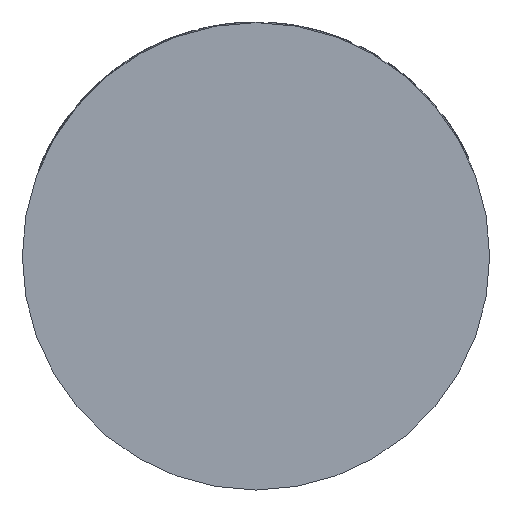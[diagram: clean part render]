
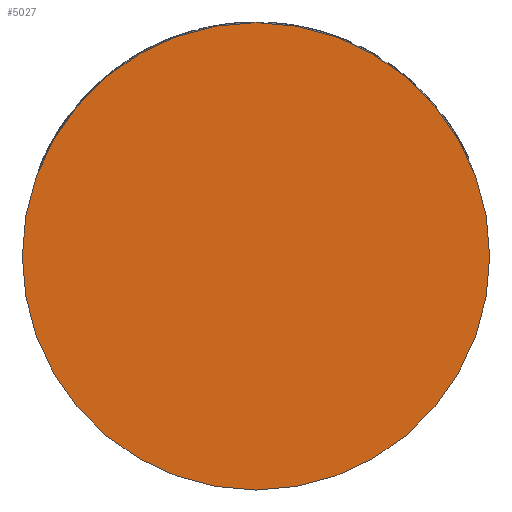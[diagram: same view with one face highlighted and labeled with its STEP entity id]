
A CAD part, front view. The second image highlights one B-rep face of the part: STEP entity #5027.
In plain terms, the highlighted planar face has unit normal (0, -1, 0).
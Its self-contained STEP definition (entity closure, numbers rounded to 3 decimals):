
#207=PLANE('',#5361);
#592=FACE_OUTER_BOUND('',#901,.T.);
#901=EDGE_LOOP('',(#4660));
#1753=CIRCLE('',#5353,38.);
#2468=VERTEX_POINT('',#10555);
#3202=EDGE_CURVE('',#2468,#2468,#1753,.T.);
#4660=ORIENTED_EDGE('',*,*,#3202,.T.);
#5027=ADVANCED_FACE('',(#592),#207,.F.);
#5353=AXIS2_PLACEMENT_3D('',#10556,#6352,#6353);
#5361=AXIS2_PLACEMENT_3D('',#10566,#6368,#6369);
#6352=DIRECTION('center_axis',(0.,-1.,0.));
#6353=DIRECTION('ref_axis',(1.,0.,0.));
#6368=DIRECTION('center_axis',(0.,1.,0.));
#6369=DIRECTION('ref_axis',(0.,0.,1.));
#10555=CARTESIAN_POINT('',(-38.,0.,0.));
#10556=CARTESIAN_POINT('Origin',(0.,0.,0.));
#10566=CARTESIAN_POINT('Origin',(0.,0.,0.));
